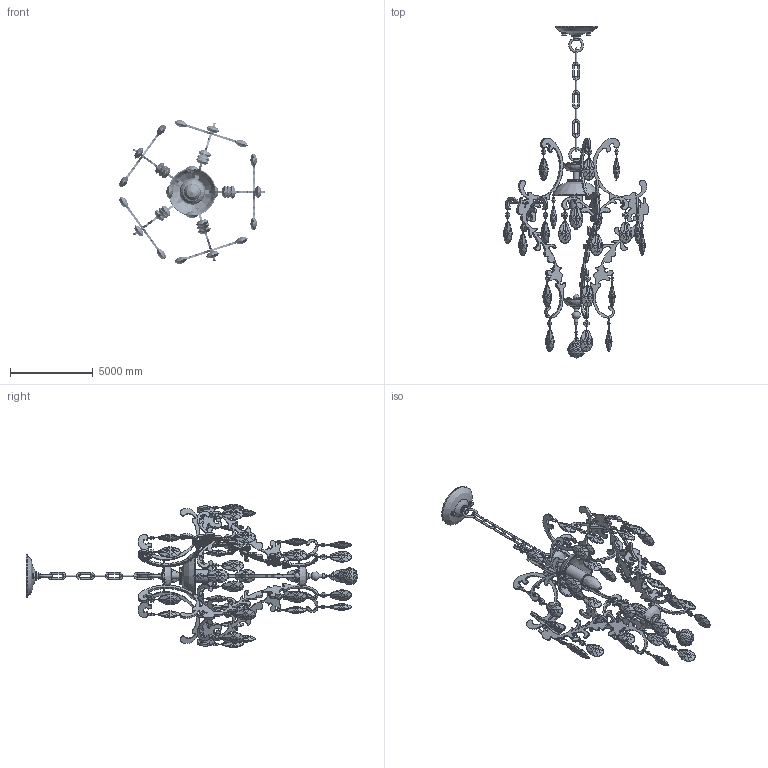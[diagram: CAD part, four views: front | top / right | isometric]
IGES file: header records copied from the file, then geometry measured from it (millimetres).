
Global section: file name: Stars Tears Chandelier; native system: AutoCAD 2022 - 简体中文 (Simplified Chinese),62HAuto; preprocessor: desk Translation Framework DWG producer (atf_dwg_producer); organization: unknown; date: 20251123.175910; units: inch
Bounding box: 8770.77 x 20003.68 x 8674.57 mm (x, y, z)
Volume: 11788795502.7 mm3; surface area: 268146142.1 mm2
Topology: 183 solids, 183 shells, 3581 faces, 7537 edges, 4418 vertices
Faces by surface type: bspline 3581
